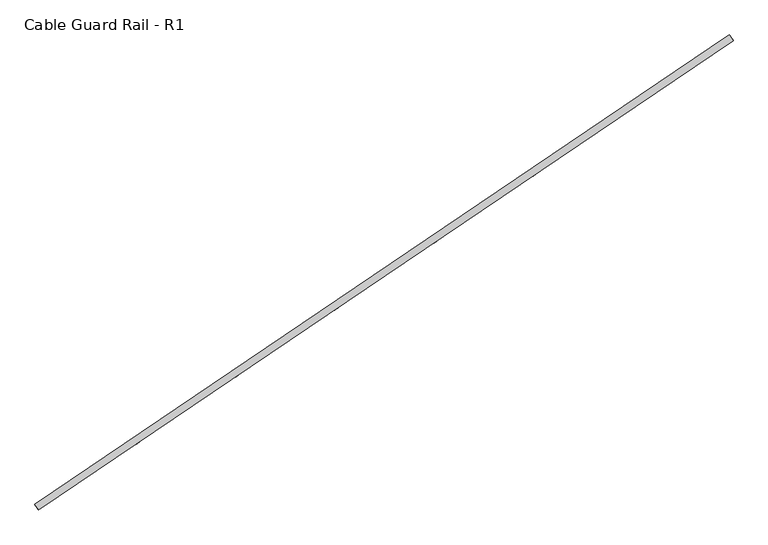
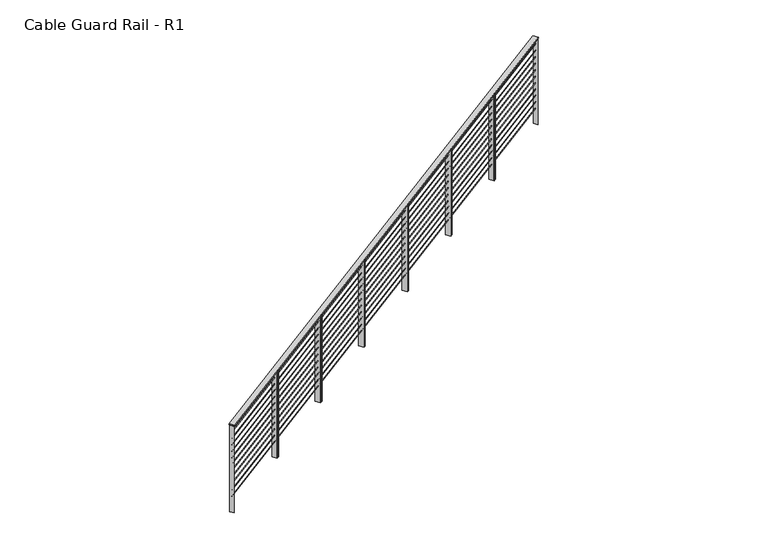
"""IFC4 building model written with IfcOpenShell, lengths in millimetres: railing geometry, Cable Guard Rail - R1."""

from ifc_helpers import new_model, si_unit, frame, origin, place, context, project, spatial, polyline, ellipse_curve, outline, extrude, faceted_brep, source, transform, mapped, element, save
from ifc_brep_helpers import plane_surface, cylinder_surface, advanced_brep


def cable_guard_rail_r1_ed89bf40(model_context):
    return source(origin(), model_context, "Body", "SolidModel", [
        faceted_brep([(40045.2178341, 170212.2896785, 294003.366565), (40002.5503121, 170275.4238418, 294003.366565), (40002.5503121, 170275.4238418, 293990.6490786), (40045.2178341, 170212.2896785, 293990.6490786), (47487.5436777, 175241.9849282, 294474.9), (47487.5436777, 175241.9849282, 294462.1825136), (47444.8761558, 175305.1190915, 294462.1825136), (47444.8761558, 175305.1190915, 294474.9)], [[[0, 1, 2, 3]], [[4, 5, 6, 7]], [[1, 0, 4, 7]], [[2, 1, 7, 6]], [[3, 2, 6, 5]], [[0, 3, 5, 4]]]),
        advanced_brep(
        [(40022.1062597, 170246.4873503, 293889.066565), (40025.6618865, 170241.22617, 293889.066565), (47464.4321033, 175276.1826, 294360.6), (47467.9877302, 175270.9214197, 294360.6)],
        [
            (0, 1, ellipse_curve(frame((40023.8840731, 170243.8567602, 293889.066565), z_axis=(-0.8285323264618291, -0.5599412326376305, 0.0), x_axis=(0.0, 0.0, -1.0)), 3.1793716, 3.175)),
            (1, 0, ellipse_curve(frame((40023.8840731, 170243.8567602, 293889.066565), z_axis=(-0.8285323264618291, -0.5599412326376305, 0.0), x_axis=(0.0, 0.0, -1.0)), 3.1793716, 3.175)),
            (2, 3, ellipse_curve(frame((47466.2099168, 175273.5520098, 294360.6), z_axis=(0.8285323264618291, 0.5599412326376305, 0.0), x_axis=(0.0, 0.0, -1.0)), 3.1793716, 3.175)),
            (3, 2, ellipse_curve(frame((47466.2099168, 175273.5520098, 294360.6), z_axis=(0.8285323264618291, 0.5599412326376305, 0.0), x_axis=(0.0, 0.0, -1.0)), 3.1793716, 3.175)),
            (0, 2),
            (3, 1),
        ],
        [
            plane_surface(frame((40023.8840731, 170243.8567602, 293889.066565), z_axis=(-0.8285323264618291, -0.5599412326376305, 0.0), x_axis=(0.5599412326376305, -0.8285323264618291, 0.0))),
            plane_surface(frame((47466.2099168, 175273.5520098, 294360.6), z_axis=(0.8285323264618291, 0.5599412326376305, 0.0), x_axis=(0.5599412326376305, -0.8285323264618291, 0.0))),
            cylinder_surface(frame((40023.8840731, 170243.8567602, 293889.066565), z_axis=(-0.827393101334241, -0.5591713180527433, -0.05242225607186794), x_axis=(0.5599412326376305, -0.8285323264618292, 0.0)), 3.175),
        ],
        [
            (0, [[1, 2]]),
            (1, [[3, 4]]),
            (2, [[-1, 5, -4, 6]]),
            (2, [[-2, -6, -3, -5]]),
        ],
    ),
        advanced_brep(
        [(40022.1062597, 170246.4873503, 293787.466565), (40025.6618865, 170241.22617, 293787.466565), (47464.4321033, 175276.1826, 294259.0), (47467.9877302, 175270.9214197, 294259.0)],
        [
            (0, 1, ellipse_curve(frame((40023.8840731, 170243.8567602, 293787.466565), z_axis=(-0.8285323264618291, -0.5599412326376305, 0.0), x_axis=(0.0, 0.0, -1.0)), 3.1793716, 3.175)),
            (1, 0, ellipse_curve(frame((40023.8840731, 170243.8567602, 293787.466565), z_axis=(-0.8285323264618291, -0.5599412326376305, 0.0), x_axis=(0.0, 0.0, -1.0)), 3.1793716, 3.175)),
            (2, 3, ellipse_curve(frame((47466.2099168, 175273.5520098, 294259.0), z_axis=(0.8285323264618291, 0.5599412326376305, 0.0), x_axis=(0.0, 0.0, -1.0)), 3.1793716, 3.175)),
            (3, 2, ellipse_curve(frame((47466.2099168, 175273.5520098, 294259.0), z_axis=(0.8285323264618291, 0.5599412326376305, 0.0), x_axis=(0.0, 0.0, -1.0)), 3.1793716, 3.175)),
            (0, 2),
            (3, 1),
        ],
        [
            plane_surface(frame((40023.8840731, 170243.8567602, 293787.466565), z_axis=(-0.8285323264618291, -0.5599412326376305, 0.0), x_axis=(0.5599412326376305, -0.8285323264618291, 0.0))),
            plane_surface(frame((47466.2099168, 175273.5520098, 294259.0), z_axis=(0.8285323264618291, 0.5599412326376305, 0.0), x_axis=(0.5599412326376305, -0.8285323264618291, 0.0))),
            cylinder_surface(frame((40023.8840731, 170243.8567602, 293787.466565), z_axis=(-0.827393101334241, -0.5591713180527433, -0.05242225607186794), x_axis=(0.5599412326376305, -0.8285323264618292, 0.0)), 3.175),
        ],
        [
            (0, [[1, 2]]),
            (1, [[3, 4]]),
            (2, [[-1, 5, -4, 6]]),
            (2, [[-2, -6, -3, -5]]),
        ],
    ),
        advanced_brep(
        [(40022.1062597, 170246.4873503, 293685.866565), (40025.6618865, 170241.22617, 293685.866565), (47464.4321033, 175276.1826, 294157.4), (47467.9877302, 175270.9214197, 294157.4)],
        [
            (0, 1, ellipse_curve(frame((40023.8840731, 170243.8567602, 293685.866565), z_axis=(-0.8285323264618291, -0.5599412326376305, 0.0), x_axis=(0.0, 0.0, -1.0)), 3.1793716, 3.175)),
            (1, 0, ellipse_curve(frame((40023.8840731, 170243.8567602, 293685.866565), z_axis=(-0.8285323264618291, -0.5599412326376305, 0.0), x_axis=(0.0, 0.0, -1.0)), 3.1793716, 3.175)),
            (2, 3, ellipse_curve(frame((47466.2099168, 175273.5520098, 294157.4), z_axis=(0.8285323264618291, 0.5599412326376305, 0.0), x_axis=(0.0, 0.0, -1.0)), 3.1793716, 3.175)),
            (3, 2, ellipse_curve(frame((47466.2099168, 175273.5520098, 294157.4), z_axis=(0.8285323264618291, 0.5599412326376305, 0.0), x_axis=(0.0, 0.0, -1.0)), 3.1793716, 3.175)),
            (0, 2),
            (3, 1),
        ],
        [
            plane_surface(frame((40023.8840731, 170243.8567602, 293685.866565), z_axis=(-0.8285323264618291, -0.5599412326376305, 0.0), x_axis=(0.5599412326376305, -0.8285323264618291, 0.0))),
            plane_surface(frame((47466.2099168, 175273.5520098, 294157.4), z_axis=(0.8285323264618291, 0.5599412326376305, 0.0), x_axis=(0.5599412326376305, -0.8285323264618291, 0.0))),
            cylinder_surface(frame((40023.8840731, 170243.8567602, 293685.866565), z_axis=(-0.827393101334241, -0.5591713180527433, -0.05242225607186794), x_axis=(0.5599412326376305, -0.8285323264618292, 0.0)), 3.175),
        ],
        [
            (0, [[1, 2]]),
            (1, [[3, 4]]),
            (2, [[-1, 5, -4, 6]]),
            (2, [[-2, -6, -3, -5]]),
        ],
    ),
        advanced_brep(
        [(40022.1062597, 170246.4873503, 293584.266565), (40025.6618865, 170241.22617, 293584.266565), (47464.4321033, 175276.1826, 294055.8), (47467.9877302, 175270.9214197, 294055.8)],
        [
            (0, 1, ellipse_curve(frame((40023.8840731, 170243.8567602, 293584.266565), z_axis=(-0.8285323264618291, -0.5599412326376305, 0.0), x_axis=(0.0, 0.0, -1.0)), 3.1793716, 3.175)),
            (1, 0, ellipse_curve(frame((40023.8840731, 170243.8567602, 293584.266565), z_axis=(-0.8285323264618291, -0.5599412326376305, 0.0), x_axis=(0.0, 0.0, -1.0)), 3.1793716, 3.175)),
            (2, 3, ellipse_curve(frame((47466.2099168, 175273.5520098, 294055.8), z_axis=(0.8285323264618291, 0.5599412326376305, 0.0), x_axis=(0.0, 0.0, -1.0)), 3.1793716, 3.175)),
            (3, 2, ellipse_curve(frame((47466.2099168, 175273.5520098, 294055.8), z_axis=(0.8285323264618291, 0.5599412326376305, 0.0), x_axis=(0.0, 0.0, -1.0)), 3.1793716, 3.175)),
            (0, 2),
            (3, 1),
        ],
        [
            plane_surface(frame((40023.8840731, 170243.8567602, 293584.266565), z_axis=(-0.8285323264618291, -0.5599412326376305, 0.0), x_axis=(0.5599412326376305, -0.8285323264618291, 0.0))),
            plane_surface(frame((47466.2099168, 175273.5520098, 294055.8), z_axis=(0.8285323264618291, 0.5599412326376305, 0.0), x_axis=(0.5599412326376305, -0.8285323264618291, 0.0))),
            cylinder_surface(frame((40023.8840731, 170243.8567602, 293584.266565), z_axis=(-0.827393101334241, -0.5591713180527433, -0.05242225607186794), x_axis=(0.5599412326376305, -0.8285323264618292, 0.0)), 3.175),
        ],
        [
            (0, [[1, 2]]),
            (1, [[3, 4]]),
            (2, [[-1, 5, -4, 6]]),
            (2, [[-2, -6, -3, -5]]),
        ],
    ),
        advanced_brep(
        [(40022.1062597, 170246.4873503, 293482.666565), (40025.6618865, 170241.22617, 293482.666565), (47464.4321033, 175276.1826, 293954.2), (47467.9877302, 175270.9214197, 293954.2)],
        [
            (0, 1, ellipse_curve(frame((40023.8840731, 170243.8567602, 293482.666565), z_axis=(-0.8285323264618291, -0.5599412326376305, 0.0), x_axis=(0.0, 0.0, -1.0)), 3.1793716, 3.175)),
            (1, 0, ellipse_curve(frame((40023.8840731, 170243.8567602, 293482.666565), z_axis=(-0.8285323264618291, -0.5599412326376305, 0.0), x_axis=(0.0, 0.0, -1.0)), 3.1793716, 3.175)),
            (2, 3, ellipse_curve(frame((47466.2099168, 175273.5520098, 293954.2), z_axis=(0.8285323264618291, 0.5599412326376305, 0.0), x_axis=(0.0, 0.0, -1.0)), 3.1793716, 3.175)),
            (3, 2, ellipse_curve(frame((47466.2099168, 175273.5520098, 293954.2), z_axis=(0.8285323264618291, 0.5599412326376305, 0.0), x_axis=(0.0, 0.0, -1.0)), 3.1793716, 3.175)),
            (0, 2),
            (3, 1),
        ],
        [
            plane_surface(frame((40023.8840731, 170243.8567602, 293482.666565), z_axis=(-0.8285323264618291, -0.5599412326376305, 0.0), x_axis=(0.5599412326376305, -0.8285323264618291, 0.0))),
            plane_surface(frame((47466.2099168, 175273.5520098, 293954.2), z_axis=(0.8285323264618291, 0.5599412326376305, 0.0), x_axis=(0.5599412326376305, -0.8285323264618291, 0.0))),
            cylinder_surface(frame((40023.8840731, 170243.8567602, 293482.666565), z_axis=(-0.827393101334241, -0.5591713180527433, -0.05242225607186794), x_axis=(0.5599412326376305, -0.8285323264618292, 0.0)), 3.175),
        ],
        [
            (0, [[1, 2]]),
            (1, [[3, 4]]),
            (2, [[-1, 5, -4, 6]]),
            (2, [[-2, -6, -3, -5]]),
        ],
    ),
        advanced_brep(
        [(40022.1062597, 170246.4873503, 293381.066565), (40025.6618865, 170241.22617, 293381.066565), (47464.4321033, 175276.1826, 293852.6), (47467.9877302, 175270.9214197, 293852.6)],
        [
            (0, 1, ellipse_curve(frame((40023.8840731, 170243.8567602, 293381.066565), z_axis=(-0.8285323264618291, -0.5599412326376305, 0.0), x_axis=(0.0, 0.0, -1.0)), 3.1793716, 3.175)),
            (1, 0, ellipse_curve(frame((40023.8840731, 170243.8567602, 293381.066565), z_axis=(-0.8285323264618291, -0.5599412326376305, 0.0), x_axis=(0.0, 0.0, -1.0)), 3.1793716, 3.175)),
            (2, 3, ellipse_curve(frame((47466.2099168, 175273.5520098, 293852.6), z_axis=(0.8285323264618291, 0.5599412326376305, 0.0), x_axis=(0.0, 0.0, -1.0)), 3.1793716, 3.175)),
            (3, 2, ellipse_curve(frame((47466.2099168, 175273.5520098, 293852.6), z_axis=(0.8285323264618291, 0.5599412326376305, 0.0), x_axis=(0.0, 0.0, -1.0)), 3.1793716, 3.175)),
            (0, 2),
            (3, 1),
        ],
        [
            plane_surface(frame((40023.8840731, 170243.8567602, 293381.066565), z_axis=(-0.8285323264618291, -0.5599412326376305, 0.0), x_axis=(0.5599412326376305, -0.8285323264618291, 0.0))),
            plane_surface(frame((47466.2099168, 175273.5520098, 293852.6), z_axis=(0.8285323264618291, 0.5599412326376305, 0.0), x_axis=(0.5599412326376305, -0.8285323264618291, 0.0))),
            cylinder_surface(frame((40023.8840731, 170243.8567602, 293381.066565), z_axis=(-0.827393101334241, -0.5591713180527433, -0.05242225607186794), x_axis=(0.5599412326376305, -0.8285323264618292, 0.0)), 3.175),
        ],
        [
            (0, [[1, 2]]),
            (1, [[3, 4]]),
            (2, [[-1, 5, -4, 6]]),
            (2, [[-2, -6, -3, -5]]),
        ],
    ),
        advanced_brep(
        [(40022.1062597, 170246.4873503, 293279.466565), (40025.6618865, 170241.22617, 293279.466565), (47464.4321033, 175276.1826, 293751.0), (47467.9877302, 175270.9214197, 293751.0)],
        [
            (0, 1, ellipse_curve(frame((40023.8840731, 170243.8567602, 293279.466565), z_axis=(-0.8285323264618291, -0.5599412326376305, 0.0), x_axis=(0.0, 0.0, -1.0)), 3.1793716, 3.175)),
            (1, 0, ellipse_curve(frame((40023.8840731, 170243.8567602, 293279.466565), z_axis=(-0.8285323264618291, -0.5599412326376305, 0.0), x_axis=(0.0, 0.0, -1.0)), 3.1793716, 3.175)),
            (2, 3, ellipse_curve(frame((47466.2099168, 175273.5520098, 293751.0), z_axis=(0.8285323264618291, 0.5599412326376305, 0.0), x_axis=(0.0, 0.0, -1.0)), 3.1793716, 3.175)),
            (3, 2, ellipse_curve(frame((47466.2099168, 175273.5520098, 293751.0), z_axis=(0.8285323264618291, 0.5599412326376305, 0.0), x_axis=(0.0, 0.0, -1.0)), 3.1793716, 3.175)),
            (0, 2),
            (3, 1),
        ],
        [
            plane_surface(frame((40023.8840731, 170243.8567602, 293279.466565), z_axis=(-0.8285323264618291, -0.5599412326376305, 0.0), x_axis=(0.5599412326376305, -0.8285323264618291, 0.0))),
            plane_surface(frame((47466.2099168, 175273.5520098, 293751.0), z_axis=(0.8285323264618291, 0.5599412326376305, 0.0), x_axis=(0.5599412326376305, -0.8285323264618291, 0.0))),
            cylinder_surface(frame((40023.8840731, 170243.8567602, 293279.466565), z_axis=(-0.827393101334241, -0.5591713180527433, -0.05242225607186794), x_axis=(0.5599412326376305, -0.8285323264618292, 0.0)), 3.175),
        ],
        [
            (0, [[1, 2]]),
            (1, [[3, 4]]),
            (2, [[-1, 5, -4, 6]]),
            (2, [[-2, -6, -3, -5]]),
        ],
    ),
        advanced_brep(
        [(40022.1062597, 170246.4873503, 293177.866565), (40025.6618865, 170241.22617, 293177.866565), (47464.4321033, 175276.1826, 293649.4), (47467.9877302, 175270.9214197, 293649.4)],
        [
            (0, 1, ellipse_curve(frame((40023.8840731, 170243.8567602, 293177.866565), z_axis=(-0.8285323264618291, -0.5599412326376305, 0.0), x_axis=(0.0, 0.0, -1.0)), 3.1793716, 3.175)),
            (1, 0, ellipse_curve(frame((40023.8840731, 170243.8567602, 293177.866565), z_axis=(-0.8285323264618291, -0.5599412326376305, 0.0), x_axis=(0.0, 0.0, -1.0)), 3.1793716, 3.175)),
            (2, 3, ellipse_curve(frame((47466.2099168, 175273.5520098, 293649.4), z_axis=(0.8285323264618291, 0.5599412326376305, 0.0), x_axis=(0.0, 0.0, -1.0)), 3.1793716, 3.175)),
            (3, 2, ellipse_curve(frame((47466.2099168, 175273.5520098, 293649.4), z_axis=(0.8285323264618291, 0.5599412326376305, 0.0), x_axis=(0.0, 0.0, -1.0)), 3.1793716, 3.175)),
            (0, 2),
            (3, 1),
        ],
        [
            plane_surface(frame((40023.8840731, 170243.8567602, 293177.866565), z_axis=(-0.8285323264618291, -0.5599412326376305, 0.0), x_axis=(0.5599412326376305, -0.8285323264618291, 0.0))),
            plane_surface(frame((47466.2099168, 175273.5520098, 293649.4), z_axis=(0.8285323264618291, 0.5599412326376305, 0.0), x_axis=(0.5599412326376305, -0.8285323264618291, 0.0))),
            cylinder_surface(frame((40023.8840731, 170243.8567602, 293177.866565), z_axis=(-0.827393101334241, -0.5591713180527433, -0.05242225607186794), x_axis=(0.5599412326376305, -0.8285323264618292, 0.0)), 3.175),
        ],
        [
            (0, [[1, 2]]),
            (1, [[3, 4]]),
            (2, [[-1, 5, -4, 6]]),
            (2, [[-2, -6, -3, -5]]),
        ],
    ),
        advanced_brep(
        [(40022.1062597, 170246.4873503, 293076.266565), (40025.6618865, 170241.22617, 293076.266565), (47464.4321033, 175276.1826, 293547.8), (47467.9877302, 175270.9214197, 293547.8)],
        [
            (0, 1, ellipse_curve(frame((40023.8840731, 170243.8567602, 293076.266565), z_axis=(-0.8285323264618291, -0.5599412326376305, 0.0), x_axis=(0.0, 0.0, -1.0)), 3.1793716, 3.175)),
            (1, 0, ellipse_curve(frame((40023.8840731, 170243.8567602, 293076.266565), z_axis=(-0.8285323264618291, -0.5599412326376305, 0.0), x_axis=(0.0, 0.0, -1.0)), 3.1793716, 3.175)),
            (2, 3, ellipse_curve(frame((47466.2099168, 175273.5520098, 293547.8), z_axis=(0.8285323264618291, 0.5599412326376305, 0.0), x_axis=(0.0, 0.0, -1.0)), 3.1793716, 3.175)),
            (3, 2, ellipse_curve(frame((47466.2099168, 175273.5520098, 293547.8), z_axis=(0.8285323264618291, 0.5599412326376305, 0.0), x_axis=(0.0, 0.0, -1.0)), 3.1793716, 3.175)),
            (0, 2),
            (3, 1),
        ],
        [
            plane_surface(frame((40023.8840731, 170243.8567602, 293076.266565), z_axis=(-0.8285323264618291, -0.5599412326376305, 0.0), x_axis=(0.5599412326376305, -0.8285323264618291, 0.0))),
            plane_surface(frame((47466.2099168, 175273.5520098, 293547.8), z_axis=(0.8285323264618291, 0.5599412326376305, 0.0), x_axis=(0.5599412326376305, -0.8285323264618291, 0.0))),
            cylinder_surface(frame((40023.8840731, 170243.8567602, 293076.266565), z_axis=(-0.827393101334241, -0.5591713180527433, -0.05242225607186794), x_axis=(0.5599412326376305, -0.8285323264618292, 0.0)), 3.175),
        ],
        [
            (0, [[1, 2]]),
            (1, [[3, 4]]),
            (2, [[-1, 5, -4, 6]]),
            (2, [[-2, -6, -3, -5]]),
        ],
    ),
        advanced_brep(
        [(40022.1062597, 170246.4873503, 292974.666565), (40025.6618865, 170241.22617, 292974.666565), (47464.4321033, 175276.1826, 293446.2), (47467.9877302, 175270.9214197, 293446.2)],
        [
            (0, 1, ellipse_curve(frame((40023.8840731, 170243.8567602, 292974.666565), z_axis=(-0.8285323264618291, -0.5599412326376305, 0.0), x_axis=(0.0, 0.0, -1.0)), 3.1793716, 3.175)),
            (1, 0, ellipse_curve(frame((40023.8840731, 170243.8567602, 292974.666565), z_axis=(-0.8285323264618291, -0.5599412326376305, 0.0), x_axis=(0.0, 0.0, -1.0)), 3.1793716, 3.175)),
            (2, 3, ellipse_curve(frame((47466.2099168, 175273.5520098, 293446.2), z_axis=(0.8285323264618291, 0.5599412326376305, 0.0), x_axis=(0.0, 0.0, -1.0)), 3.1793716, 3.175)),
            (3, 2, ellipse_curve(frame((47466.2099168, 175273.5520098, 293446.2), z_axis=(0.8285323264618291, 0.5599412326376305, 0.0), x_axis=(0.0, 0.0, -1.0)), 3.1793716, 3.175)),
            (0, 2),
            (3, 1),
        ],
        [
            plane_surface(frame((40023.8840731, 170243.8567602, 292974.666565), z_axis=(-0.8285323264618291, -0.5599412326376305, 0.0), x_axis=(0.5599412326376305, -0.8285323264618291, 0.0))),
            plane_surface(frame((47466.2099168, 175273.5520098, 293446.2), z_axis=(0.8285323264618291, 0.5599412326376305, 0.0), x_axis=(0.5599412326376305, -0.8285323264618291, 0.0))),
            cylinder_surface(frame((40023.8840731, 170243.8567602, 292974.666565), z_axis=(-0.827393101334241, -0.5591713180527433, -0.05242225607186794), x_axis=(0.5599412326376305, -0.8285323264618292, 0.0)), 3.175),
        ],
        [
            (0, [[1, 2]]),
            (1, [[3, 4]]),
            (2, [[-1, 5, -4, 6]]),
            (2, [[-2, -6, -3, -5]]),
        ],
    ),
        advanced_brep(
        [(40022.1062597, 170246.4873503, 292873.066565), (40025.6618865, 170241.22617, 292873.066565), (47464.4321033, 175276.1826, 293344.6), (47467.9877302, 175270.9214197, 293344.6)],
        [
            (0, 1, ellipse_curve(frame((40023.8840731, 170243.8567602, 292873.066565), z_axis=(-0.8285323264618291, -0.5599412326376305, 0.0), x_axis=(0.0, 0.0, -1.0)), 3.1793716, 3.175)),
            (1, 0, ellipse_curve(frame((40023.8840731, 170243.8567602, 292873.066565), z_axis=(-0.8285323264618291, -0.5599412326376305, 0.0), x_axis=(0.0, 0.0, -1.0)), 3.1793716, 3.175)),
            (2, 3, ellipse_curve(frame((47466.2099168, 175273.5520098, 293344.6), z_axis=(0.8285323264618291, 0.5599412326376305, 0.0), x_axis=(0.0, 0.0, -1.0)), 3.1793716, 3.175)),
            (3, 2, ellipse_curve(frame((47466.2099168, 175273.5520098, 293344.6), z_axis=(0.8285323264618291, 0.5599412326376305, 0.0), x_axis=(0.0, 0.0, -1.0)), 3.1793716, 3.175)),
            (0, 2),
            (3, 1),
        ],
        [
            plane_surface(frame((40023.8840731, 170243.8567602, 292873.066565), z_axis=(-0.8285323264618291, -0.5599412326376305, 0.0), x_axis=(0.5599412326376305, -0.8285323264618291, 0.0))),
            plane_surface(frame((47466.2099168, 175273.5520098, 293344.6), z_axis=(0.8285323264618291, 0.5599412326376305, 0.0), x_axis=(0.5599412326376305, -0.8285323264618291, 0.0))),
            cylinder_surface(frame((40023.8840731, 170243.8567602, 292873.066565), z_axis=(-0.827393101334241, -0.5591713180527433, -0.05242225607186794), x_axis=(0.5599412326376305, -0.8285323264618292, 0.0)), 3.175),
        ],
        [
            (0, [[1, 2]]),
            (1, [[3, 4]]),
            (2, [[-1, 5, -4, 6]]),
            (2, [[-2, -6, -3, -5]]),
        ],
    ),
        extrude(outline(polyline([(46363.2726186, 174574.1465048), (46371.164389, 174579.479945), (46413.8319109, 174516.3457817), (46405.9401405, 174511.0123415), (46363.2726186, 174574.1465048)])), frame((0.0, 0.0, 293029.5880807), z_axis=(0.0, 0.0, 1.0), x_axis=(1.0, 0.0, 0.0)), (0.0, 0.0, 1.0), 1365.25),
        extrude(outline(polyline([(46386.9479298, 174590.1468255), (46394.7997357, 174595.4532567), (46437.4672576, 174532.3190935), (46429.6154518, 174527.0126622), (46386.9479298, 174590.1468255)])), frame((0.0, 0.0, 293029.5880807), z_axis=(0.0, 0.0, 1.0), x_axis=(1.0, 0.0, 0.0)), (0.0, 0.0, 1.0), 1365.25),
        extrude(outline(polyline([(45300.0832124, 173855.618612), (45307.9749828, 173860.9520522), (45350.6425047, 173797.8178889), (45342.7507343, 173792.4844487), (45300.0832124, 173855.618612)])), frame((0.0, 0.0, 292962.2261614), z_axis=(0.0, 0.0, 1.0), x_axis=(1.0, 0.0, 0.0)), (0.0, 0.0, 1.0), 1365.25),
        extrude(outline(polyline([(45323.7585236, 173871.6189327), (45331.6103294, 173876.9253639), (45374.2778514, 173813.7912007), (45366.4260455, 173808.4847694), (45323.7585236, 173871.6189327)])), frame((0.0, 0.0, 292962.2261614), z_axis=(0.0, 0.0, 1.0), x_axis=(1.0, 0.0, 0.0)), (0.0, 0.0, 1.0), 1365.25),
        extrude(outline(polyline([(44236.8938061, 173137.0907191), (44244.7855765, 173142.4241594), (44287.4530985, 173079.2899961), (44279.5613281, 173073.9565559), (44236.8938061, 173137.0907191)])), frame((0.0, 0.0, 292894.8642422), z_axis=(0.0, 0.0, 1.0), x_axis=(1.0, 0.0, 0.0)), (0.0, 0.0, 1.0), 1365.25),
        extrude(outline(polyline([(44260.5691174, 173153.0910399), (44268.4209232, 173158.3974711), (44311.0884451, 173095.2633079), (44303.2366393, 173089.9568766), (44260.5691174, 173153.0910399)])), frame((0.0, 0.0, 292894.8642422), z_axis=(0.0, 0.0, 1.0), x_axis=(1.0, 0.0, 0.0)), (0.0, 0.0, 1.0), 1365.25),
        extrude(outline(polyline([(43173.7043999, 172418.5628263), (43181.5961703, 172423.8962666), (43224.2636922, 172360.7621033), (43216.3719218, 172355.4286631), (43173.7043999, 172418.5628263)])), frame((0.0, 0.0, 292827.5023229), z_axis=(0.0, 0.0, 1.0), x_axis=(1.0, 0.0, 0.0)), (0.0, 0.0, 1.0), 1365.25),
        extrude(outline(polyline([(43197.3797111, 172434.5631471), (43205.2315169, 172439.8695783), (43247.8990389, 172376.735415), (43240.047233, 172371.4289838), (43197.3797111, 172434.5631471)])), frame((0.0, 0.0, 292827.5023229), z_axis=(0.0, 0.0, 1.0), x_axis=(1.0, 0.0, 0.0)), (0.0, 0.0, 1.0), 1365.25),
        extrude(outline(polyline([(42110.5149936, 171700.0349335), (42118.4067641, 171705.3683738), (42161.074286, 171642.2342105), (42153.1825156, 171636.9007702), (42110.5149936, 171700.0349335)])), frame((0.0, 0.0, 292760.1404036), z_axis=(0.0, 0.0, 1.0), x_axis=(1.0, 0.0, 0.0)), (0.0, 0.0, 1.0), 1365.25),
        extrude(outline(polyline([(42134.1903049, 171716.0352542), (42142.0421107, 171721.3416855), (42184.7096326, 171658.2075222), (42176.8578268, 171652.901091), (42134.1903049, 171716.0352542)])), frame((0.0, 0.0, 292760.1404036), z_axis=(0.0, 0.0, 1.0), x_axis=(1.0, 0.0, 0.0)), (0.0, 0.0, 1.0), 1365.25),
        extrude(outline(polyline([(41047.3255874, 170981.5070407), (41055.2173578, 170986.840481), (41097.8848797, 170923.7063177), (41089.9931093, 170918.3728774), (41047.3255874, 170981.5070407)])), frame((0.0, 0.0, 292692.7784843), z_axis=(0.0, 0.0, 1.0), x_axis=(1.0, 0.0, 0.0)), (0.0, 0.0, 1.0), 1365.25),
        extrude(outline(polyline([(41071.0008986, 170997.5073614), (41078.8527045, 171002.8137927), (41121.5202264, 170939.6796294), (41113.6684206, 170934.3731982), (41071.0008986, 170997.5073614)])), frame((0.0, 0.0, 292692.7784843), z_axis=(0.0, 0.0, 1.0), x_axis=(1.0, 0.0, 0.0)), (0.0, 0.0, 1.0), 1365.25),
        extrude(outline(polyline([(47445.8011925, 175298.0800978), (47451.0623728, 175301.6357246), (47486.618641, 175249.0239219), (47481.3574608, 175245.468295), (47445.8011925, 175298.0800978)])), frame((0.0, 0.0, 293096.95), z_axis=(0.0, 0.0, 1.0), x_axis=(1.0, 0.0, 0.0)), (0.0, 0.0, 1.0), 1365.25),
        extrude(outline(polyline([(40003.4753488, 170268.3848481), (40008.7365291, 170271.9404749), (40044.2927974, 170219.3286722), (40039.0316171, 170215.7730454), (40003.4753488, 170268.3848481)])), frame((0.0, 0.0, 292625.416565), z_axis=(0.0, 0.0, 1.0), x_axis=(1.0, 0.0, 0.0)), (0.0, 0.0, 1.0), 1365.25),
    ])


if __name__ == "__main__":
    model = new_model("IFC4")
    model_context = context("Model", 3, world=origin())
    ifc_project = project(units=[si_unit("LENGTHUNIT", "METRE", prefix="MILLI")], contexts=[model_context])
    site = spatial("IfcSite", under=ifc_project)
    building = spatial("IfcBuilding", under=site)
    placement = place(None, origin())
    cable_guard_rail_r1_shape = cable_guard_rail_r1_ed89bf40(model_context)
    element("IfcRailing", 1, ObjectType="Cable Guard Rail - R1", at=placement, inside=building, context=model_context, shape_type="MappedRepresentation", body=[
        mapped(cable_guard_rail_r1_shape, transform((0.0, 0.0, 0.0), x_axis=(1.0, 0.0, 0.0), y_axis=(0.0, 1.0, 0.0), z_axis=(0.0, 0.0, 1.0))),
    ])
    save(model, "model.ifc")
